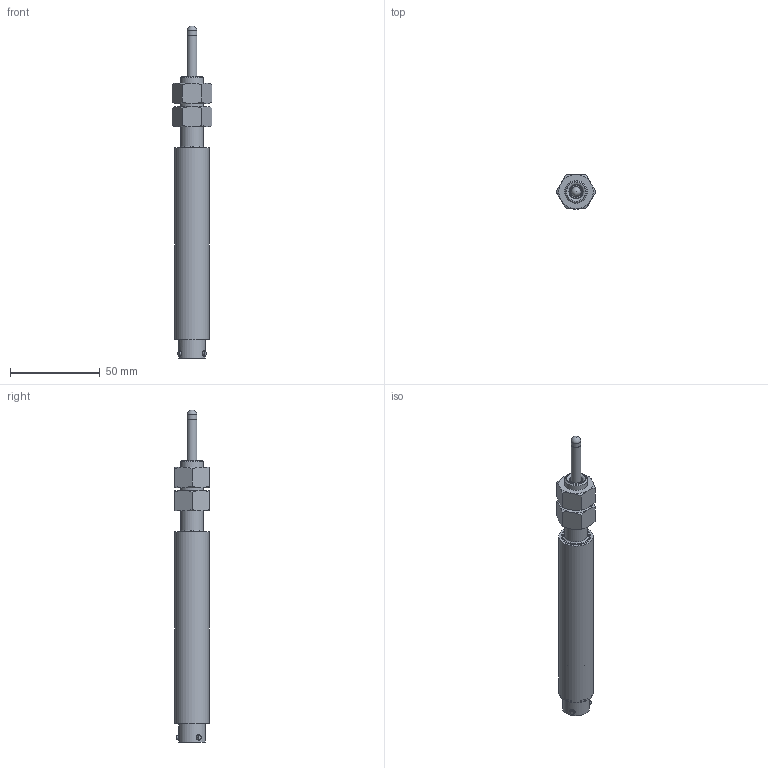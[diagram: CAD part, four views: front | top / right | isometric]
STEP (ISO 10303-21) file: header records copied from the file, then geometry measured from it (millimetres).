
FILE_DESCRIPTION(/* description */ (''),/* implementation_level */ '2;1');
FILE_NAME(/* name */ 'GH-750-E-500 ASS''Y.iam.stp',/* time_stamp */ '2023-11-10T12:30:47-05:00',/* author */ ('Justin'),/* organization */ (''),/* preprocessor_version */ 'ST-DEVELOPER v20',/* originating_system */ 'Autodesk Inventor 2024',/* authorisation */ '');
FILE_SCHEMA (('AUTOMOTIVE_DESIGN { 1 0 10303 214 3 1 1 }'));
Length unit declared in the file: inch
Products named in the file (4): GH-750-D-250 ASS'Y; GH-750-D-250 HOUSING_SW; GH-750-D-250 SHAFT_SW; AS 2465 - 1/2  UNF
Assembly tree (4 placements, depth 2):
  GH-750-D-250 ASS'Y
    GH-750-D-250 HOUSING_SW
    GH-750-D-250 SHAFT_SW
    AS 2465 - 1/2  UNF  x2
Bounding box: 22 x 19.05 x 184.56 mm (x, y, z)
Volume: 21076.5 mm3; surface area: 22934.4 mm2
Topology: 12 solids, 12 shells, 184 faces, 365 edges, 232 vertices
Faces by surface type: plane 75, cylinder 59, cone 44, torus 4, bspline 1, sphere 1
Full cylindrical faces by diameter (mm): 0.762 x12, 2.032 x3, 2.845 x3, 3.048 x3, 4.826 x2, 5.334 x4, 5.397 x1, 7.671 x2, 7.874 x1, 11.328 x2, 12.7 x1, 13.208 x1, 14.986 x1, 15.748 x2, 16.51 x1, 17.069 x1, 18.034 x1, 18.415 x3, 19.05 x1
Entity records: 4778 total; most frequent: CARTESIAN_POINT 973, DIRECTION 778, ORIENTED_EDGE 626, AXIS2_PLACEMENT_3D 330, EDGE_CURVE 313, EDGE_LOOP 204, VERTEX_POINT 203, CIRCLE 162
